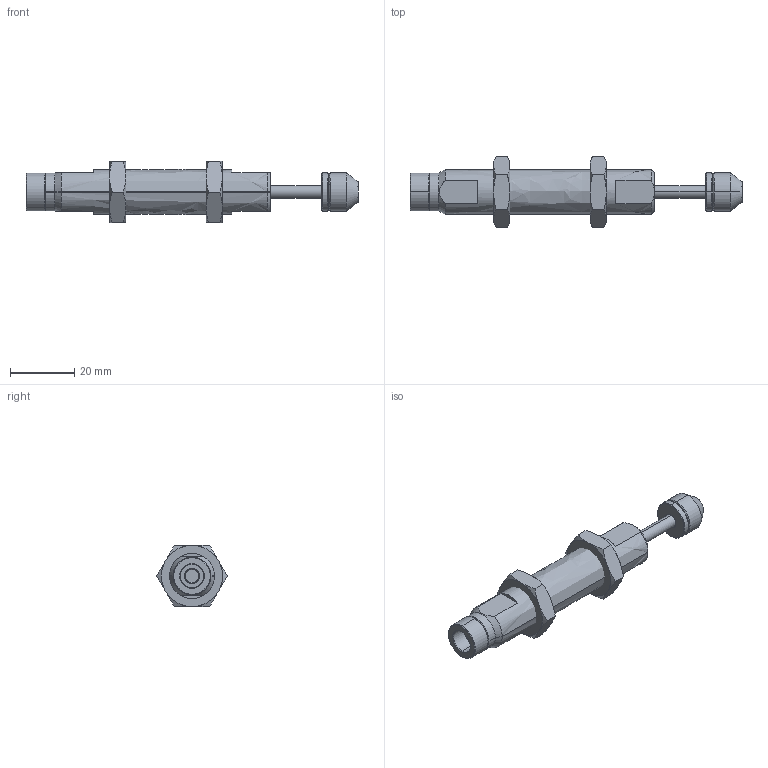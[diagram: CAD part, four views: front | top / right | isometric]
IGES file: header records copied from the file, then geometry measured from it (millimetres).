
Start section: SolidWorks IGES file using analytic representation for surfaces
Global section: file name: D:\AC1416-C-SH.IGS; native system: SolidWorks 2013; preprocessor: SolidWorks 2013; author: Administrator; date: 160411.091239; units: inch
Bounding box: 103.2 x 21.94 x 19 mm (x, y, z)
Surface area: 6426.8 mm2 (no closed solid volume)
Topology: 0 solids, 0 shells, 108 faces, 1615 edges, 1615 vertices
Faces by surface type: revolution 75, bspline 33
